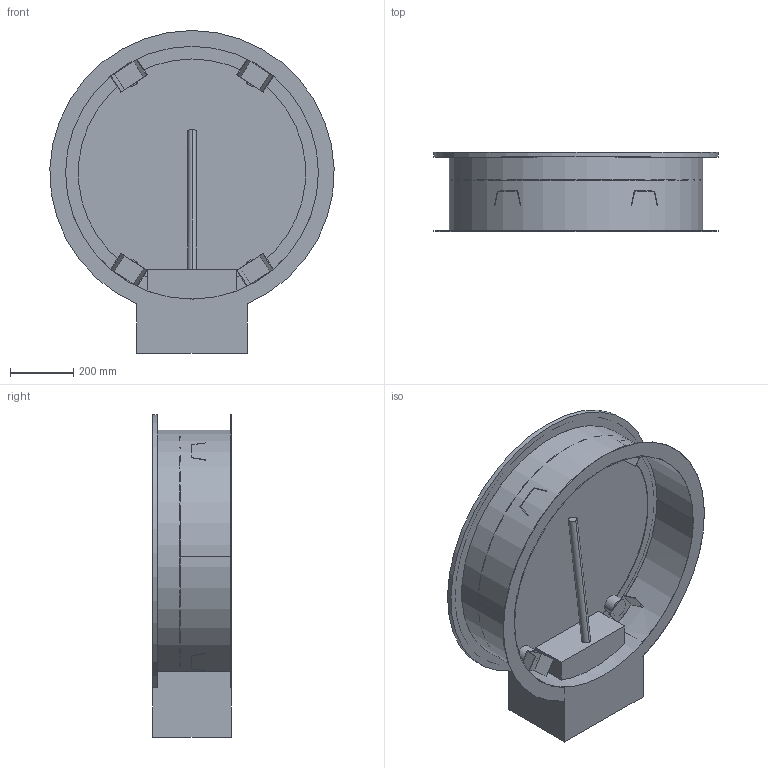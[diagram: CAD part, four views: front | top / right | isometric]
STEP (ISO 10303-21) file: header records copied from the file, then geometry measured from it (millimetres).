
FILE_DESCRIPTION((''),'2;1');
FILE_NAME('52346734','2025-01-24T06:48:02',('wep'),('HUBER SE'),'CREO PARAMETRIC BY PTC INC, 2022162','CREO PARAMETRIC BY PTC INC, 2022162','');
FILE_SCHEMA(('AUTOMOTIVE_DESIGN { 1 0 10303 214 1 1 1 1 }'));
Length unit declared in the file: millimetre
Products named in the file (1): 52346734
Bounding box: 899.64 x 250 x 1021.91 mm (x, y, z)
Volume: 62816516.8 mm3; surface area: 3479552.7 mm2
Topology: 1 solids, 1 shells, 111 faces, 276 edges, 184 vertices
Faces by surface type: plane 68, cylinder 43
Entity records: 4062 total; most frequent: CARTESIAN_POINT 661, DIRECTION 576, ORIENTED_EDGE 552, EDGE_CURVE 276, AXIS2_PLACEMENT_3D 215, VERTEX_POINT 184, VECTOR 146, LINE 146
